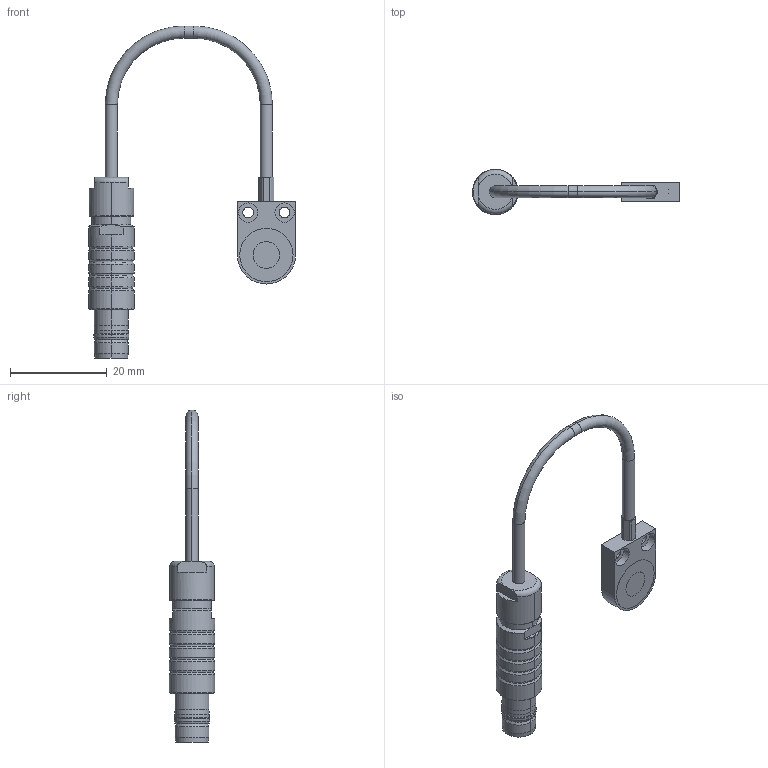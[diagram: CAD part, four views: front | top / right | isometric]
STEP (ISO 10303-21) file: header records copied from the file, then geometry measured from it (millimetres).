
FILE_DESCRIPTION((''),'2;1');
FILE_NAME('6610072-A_ASM','2009-07-30T',('11000065'),(''),'PRO/ENGINEER BY PARAMETRIC TECHNOLOGY CORPORATION, 2008490','PRO/ENGINEER BY PARAMETRIC TECHNOLOGY CORPORATION, 2008490','');
FILE_SCHEMA(('AUTOMOTIVE_DESIGN { 1 2 10303 214 0 1 1 1 }'));
Length unit declared in the file: millimetre
Products named in the file (3): CSH1FL; 0323139; 6610072-A_ASM
Assembly tree (2 placements, depth 2):
  6610072-A_ASM
    CSH1FL
    0323139
Bounding box: 42.7 x 9.4 x 68.51 mm (x, y, z)
Volume: 3103.6 mm3; surface area: 2673.5 mm2
Topology: 2 solids, 2 shells, 457 faces, 1209 edges, 784 vertices
Faces by surface type: plane 346, cylinder 57, torus 26, cone 26, bspline 2
Entity records: 18163 total; most frequent: CARTESIAN_POINT 2654, ORIENTED_EDGE 2418, DIRECTION 2293, PRESENTATION_STYLE_ASSIGNMENT 1235, STYLED_ITEM 1212, CURVE_STYLE 1209, EDGE_CURVE 1209, VECTOR 1013
